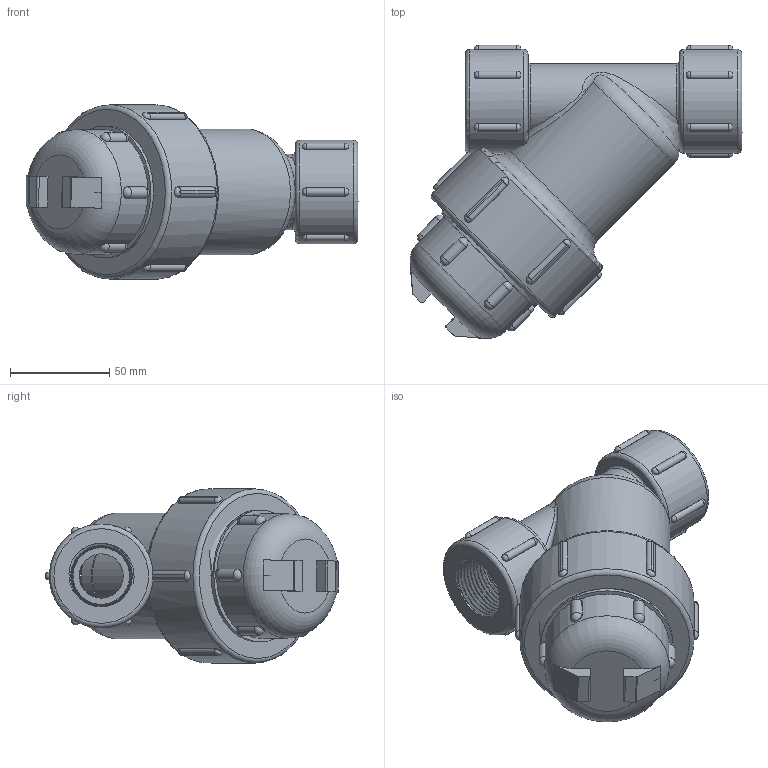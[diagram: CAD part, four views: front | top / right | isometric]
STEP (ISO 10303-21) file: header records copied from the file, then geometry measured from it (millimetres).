
FILE_DESCRIPTION(/* description */ ('Alibre Inc.'),/* implementation_level */ '2;1');
FILE_NAME(/* name */ 'export0',/* time_stamp */ '2016-10-27T12:20:26-04:00',/* author */ (''),/* organization */ (''),/* preprocessor_version */ 'ST-DEVELOPER v14',/* originating_system */ 'Alibre',/* authorisation */ '');
FILE_SCHEMA (('CONFIG_CONTROL_DESIGN'));
Length unit declared in the file: centimetre
Products named in the file (7): ID_1; ID_2; ID_3; ID_4; ID_5
Bounding box: 167.5 x 147.94 x 87.88 mm (x, y, z)
Volume: 415968.7 mm3; surface area: 162900.6 mm2
Topology: 7 solids, 7 shells, 429 faces, 1087 edges, 665 vertices
Faces by surface type: cylinder 155, plane 123, cone 51, torus 39, sphere 34, bspline 27
Full cylindrical faces by diameter (mm): 22.352 x2, 35.814 x2, 39.624 x1, 40.64 x3, 41.91 x2, 42.672 x1, 44.45 x1, 50.8 x1, 52.324 x1, 53.086 x1, 57.658 x1, 62.738 x1, 66.548 x6, 87.884 x1
Entity records: 58471 total; most frequent: CARTESIAN_POINT 48960, ORIENTED_EDGE 1962, DIRECTION 1550, EDGE_CURVE 979, AXIS2_PLACEMENT_3D 681, VERTEX_POINT 631, FACE_BOUND 480, EDGE_LOOP 479
